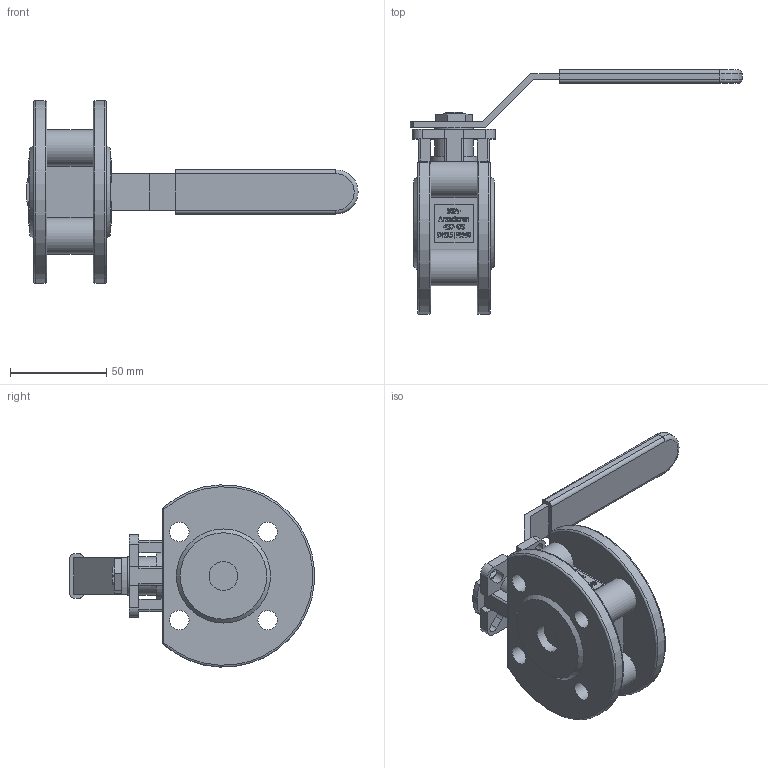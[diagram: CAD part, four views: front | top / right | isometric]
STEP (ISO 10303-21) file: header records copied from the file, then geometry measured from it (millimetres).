
FILE_DESCRIPTION((''),'2;1');
FILE_NAME('K:\Inventor\1 Artikel\12) Flanschen-Kugelhähne\12a) manuell\Econosto\437-GS, 7343\437-GS, DN15\437-GS, DN15, 3D\437-GS, DN15, PN40, HH, 3D.stp','2019-11-11T10:11:20',('claudia'),(''),'Autodesk Inventor 2013','Autodesk Inventor 2013','');
FILE_SCHEMA(('AUTOMOTIVE_DESIGN { 1 0 10303 214 1 1 1 1 }'));
Length unit declared in the file: millimetre
Products named in the file (1): Bauteil1
Bounding box: 172.92 x 127.43 x 94.89 mm (x, y, z)
Volume: 194325 mm3; surface area: 49335.1 mm2
Topology: 1 solids, 1 shells, 1279 faces, 3491 edges, 2314 vertices
Faces by surface type: plane 738, bspline 467, cylinder 58, sphere 8, torus 6, cone 2
Full cylindrical faces by diameter (mm): 10.106 x4, 15 x2, 20 x1, 26 x1
Entity records: 44440 total; most frequent: CARTESIAN_POINT 14057, ORIENTED_EDGE 6958, DIRECTION 4303, EDGE_CURVE 3479, VECTOR 2397, LINE 2397, VERTEX_POINT 2312, EDGE_LOOP 1413
